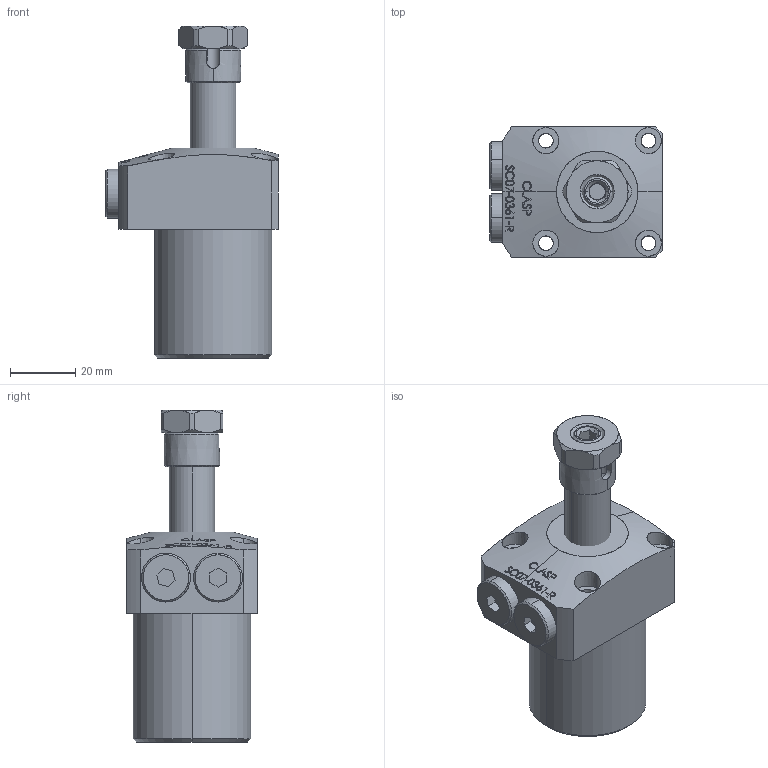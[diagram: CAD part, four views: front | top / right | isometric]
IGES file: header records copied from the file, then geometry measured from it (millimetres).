
Start section: SolidWorks IGES file using analytic representation for surfaces
Global section: file name: D:\karuppas\Clasp\3D model\SWING CYLINDER\Top Mounting swing cylinder\SC07-0361-R\SC07-0361-R.IGS; native system: SolidWorks 2017; preprocessor: SolidWorks 2017; author: pc; date: 220705.231709; units: millimetre
Bounding box: 53 x 40 x 102 mm (x, y, z)
Surface area: 21363.9 mm2 (no closed solid volume)
Topology: 0 solids, 0 shells, 368 faces, 6158 edges, 6157 vertices
Faces by surface type: bspline 255, revolution 113
